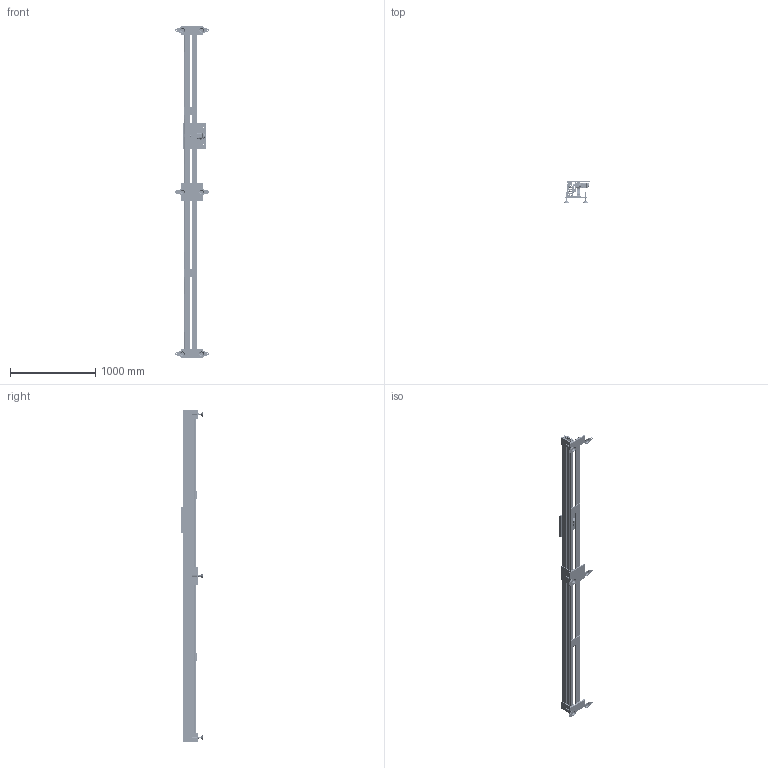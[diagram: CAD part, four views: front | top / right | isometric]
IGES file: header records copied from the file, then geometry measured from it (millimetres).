
Start section: SolidWorks IGES file using analytic representation for surfaces
Global section: file name: D:\データ\ホームページ用CAD\3D\HST45\HST45.IGS; native system: SolidWorks 2019; preprocessor: SolidWorks 2019; author: mishi; date: 200520.164446; units: millimetre
Bounding box: 393.85 x 253 x 3900 mm (x, y, z)
Volume: 5667713.3 mm3; surface area: 8101912.9 mm2
Topology: 85 solids, 102 shells, 12571 faces, 34908 edges, 22732 vertices
Faces by surface type: plane 8143, revolution 3591, bspline 837
